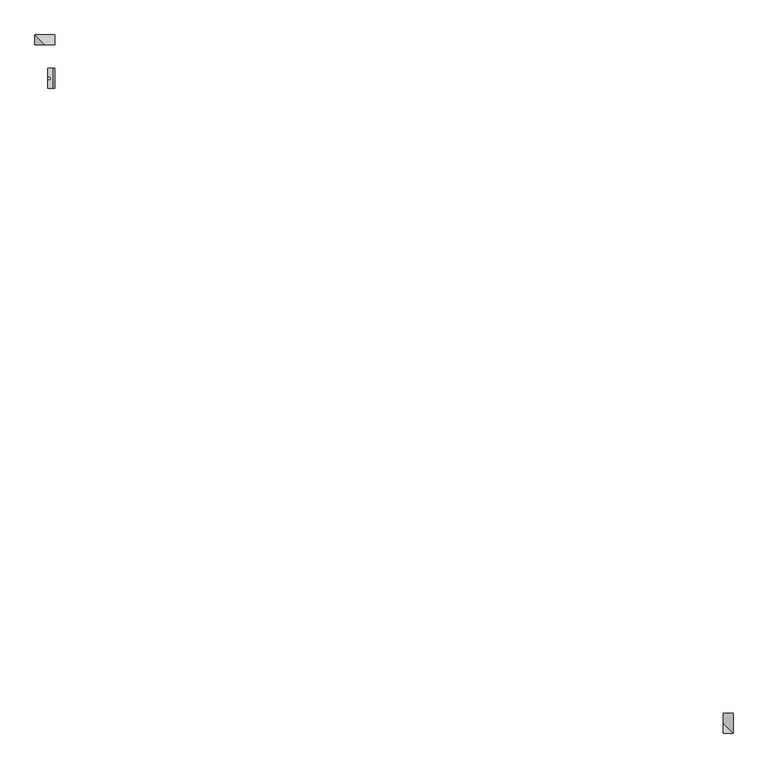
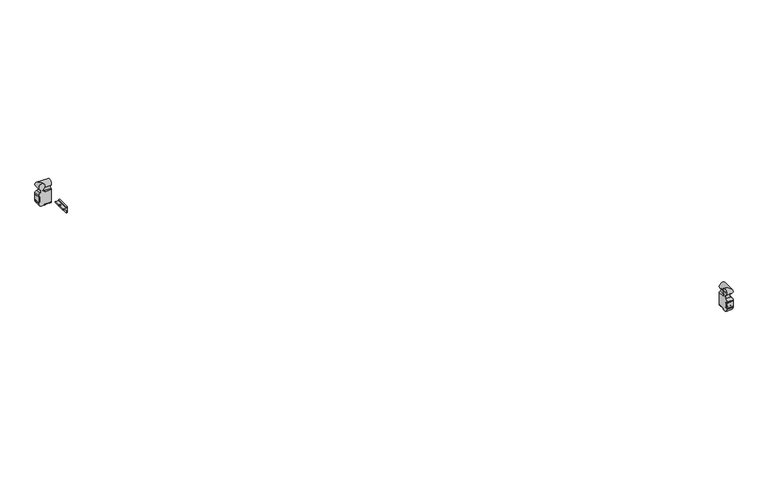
"""IFC4 building model written with IfcOpenShell, lengths in millimetres: railing geometry, Handrail-InPro-HR12-C-Prism-Metal_Bracket-Wood."""

from ifc_helpers import new_model, si_unit, frame, origin, place, context, project, spatial, polyline, circle_curve, ellipse_curve, outline, extrude, source, transform, mapped, element, save
from ifc_brep_helpers import plane_surface, cylinder_surface, revolved_surface, advanced_brep


def railing_b5e296fa(model_context):
    return source(origin(), model_context, "Body", "SolidModel", [
        advanced_brep(
        [(-5336.4882624, 4169.4443008, 812.8), (-5330.1382624, 4169.4443008, 812.8), (-5330.1382624, 4169.4443008, 850.9), (-5336.4882624, 4169.4443008, 850.9), (-5336.4882624, 4169.4443008, 844.55), (-5357.9195124, 4169.4443008, 844.55), (-5357.9195124, 4169.4443008, 838.2), (-5346.0132624, 4169.4443008, 838.2), (-5336.4882624, 4169.4443008, 828.675), (-5336.4882624, 4245.6443008, 812.8), (-5336.4882624, 4245.6443008, 828.675), (-5346.0132624, 4245.6443008, 838.2), (-5357.9195124, 4245.6443008, 838.2), (-5357.9195124, 4245.6443008, 844.55), (-5336.4882624, 4245.6443008, 844.55), (-5336.4882624, 4245.6443008, 850.9), (-5330.1382624, 4245.6443008, 850.9), (-5330.1382624, 4245.6443008, 812.8), (-5330.1382624, 4213.4974258, 825.3070671), (-5330.1382624, 4201.5911758, 825.3070671), (-5351.9663874, 4202.7818008, 844.55), (-5351.9663874, 4212.3068008, 844.55), (-5351.9663874, 4212.3068008, 838.2), (-5351.9663874, 4202.7818008, 838.2), (-5336.4882624, 4212.4531423, 828.675), (-5336.4882624, 4202.6354592, 828.675), (-5336.4882624, 4201.5911758, 825.3070671), (-5336.4882624, 4213.4974258, 825.3070671)],
        [
            (0, 1),
            (1, 2),
            (2, 3),
            (3, 4),
            (4, 5),
            (5, 6),
            (6, 7),
            (7, 8),
            (8, 0),
            (9, 10),
            (10, 11),
            (11, 12),
            (12, 13),
            (13, 14),
            (14, 15),
            (15, 16),
            (16, 17),
            (17, 9),
            (0, 9),
            (17, 1),
            (16, 2),
            (18, 19, circle_curve(frame((-5330.1382624, 4207.5443008, 825.3070671), z_axis=(-1.0, 0.0, 0.0), x_axis=(0.0, 1.0, 0.0)), 5.953125)),
            (19, 18, circle_curve(frame((-5330.1382624, 4207.5443008, 825.3070671), z_axis=(-1.0, 0.0, 0.0), x_axis=(0.0, 1.0, 0.0)), 5.953125)),
            (15, 3),
            (14, 4),
            (13, 5),
            (20, 21, circle_curve(frame((-5351.9663874, 4207.5443008, 844.55), z_axis=(0.0, 0.0, -1.0), x_axis=(0.0, -1.0, 0.0)), 4.7625)),
            (21, 20, circle_curve(frame((-5351.9663874, 4207.5443008, 844.55), z_axis=(0.0, 0.0, -1.0), x_axis=(0.0, -1.0, 0.0)), 4.7625)),
            (12, 6),
            (11, 7),
            (22, 23, circle_curve(frame((-5351.9663874, 4207.5443008, 838.2), z_axis=(0.0, 0.0, 1.0), x_axis=(0.0, -1.0, 0.0)), 4.7625)),
            (23, 22, circle_curve(frame((-5351.9663874, 4207.5443008, 838.2), z_axis=(0.0, 0.0, 1.0), x_axis=(0.0, -1.0, 0.0)), 4.7625)),
            (10, 24),
            (24, 25, ellipse_curve(frame((-5333.1203295, 4207.5443008, 825.3070671), z_axis=(0.7071067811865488, 0.0, 0.7071067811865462), x_axis=(0.7071067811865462, 0.0, -0.7071067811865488)), 8.4189901, 5.953125)),
            (25, 8),
            (25, 26, circle_curve(frame((-5336.4882624, 4207.5443008, 825.3070671), z_axis=(1.0, 0.0, 0.0), x_axis=(0.0, 1.0, 0.0)), 5.953125)),
            (26, 27, circle_curve(frame((-5336.4882624, 4207.5443008, 825.3070671), z_axis=(1.0, 0.0, 0.0), x_axis=(0.0, 1.0, 0.0)), 5.953125)),
            (27, 24, circle_curve(frame((-5336.4882624, 4207.5443008, 825.3070671), z_axis=(1.0, 0.0, 0.0), x_axis=(0.0, 1.0, 0.0)), 5.953125)),
            (22, 21),
            (20, 23),
            (26, 19),
            (18, 27),
        ],
        [
            plane_surface(frame((-5330.1382624, 4169.4443008, 812.8), z_axis=(0.0, -1.0, 0.0), x_axis=(1.0, 0.0, 0.0))),
            plane_surface(frame((-5330.1382624, 4245.6443008, 812.8), z_axis=(0.0, 1.0, 0.0), x_axis=(-1.0, 0.0, 0.0))),
            plane_surface(frame((-5336.4882624, 4169.4443008, 812.8), z_axis=(0.0, 0.0, -1.0), x_axis=(0.0, 1.0, 0.0))),
            plane_surface(frame((-5330.1382624, 4169.4443008, 812.8), z_axis=(1.0, 0.0, 0.0), x_axis=(0.0, 1.0, 0.0))),
            plane_surface(frame((-5330.1382624, 4169.4443008, 850.9), z_axis=(0.0, 0.0, 1.0), x_axis=(0.0, 1.0, 0.0))),
            plane_surface(frame((-5336.4882624, 4169.4443008, 850.9), z_axis=(-1.0, 0.0, 0.0), x_axis=(0.0, 1.0, 0.0))),
            plane_surface(frame((-5336.4882624, 4169.4443008, 844.55), z_axis=(0.0, 0.0, 1.0), x_axis=(0.0, 1.0, 0.0))),
            plane_surface(frame((-5357.9195124, 4169.4443008, 844.55), z_axis=(-1.0, 0.0, 0.0), x_axis=(0.0, 1.0, 0.0))),
            plane_surface(frame((-5357.9195124, 4169.4443008, 838.2), z_axis=(0.0, 0.0, -1.0), x_axis=(0.0, 1.0, 0.0))),
            plane_surface(frame((-5346.0132624, 4169.4443008, 838.2), z_axis=(-0.7071067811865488, 0.0, -0.7071067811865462), x_axis=(0.0, 1.0, 0.0))),
            plane_surface(frame((-5336.4882624, 4169.4443008, 828.675), z_axis=(-1.0, 0.0, 0.0), x_axis=(0.0, 1.0, 0.0))),
            revolved_surface(polyline([(-5351.9663874, 4202.7818008, 844.55), (-5351.9663874, 4202.7818008, 838.2)]), (-5351.9663874, 4207.5443008, 812.8), (0.0, 0.0, 1.0)),
            revolved_surface(polyline([(-5330.1382624, 4213.4974258, 825.3070671), (-5336.4882624, 4213.4974258, 825.3070671)]), (-5339.6632624, 4207.5443008, 825.3070671), (1.0, 0.0, 0.0)),
            revolved_surface(polyline([(-5327.167204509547, 4213.4974258, 825.3070671), (-5339.073454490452, 4213.4974258, 825.3070671)]), (-5339.6632624, 4207.5443008, 825.3070671), (1.0, 0.0, 0.0)),
        ],
        [
            (0, [[1, 2, 3, 4, 5, 6, 7, 8, 9]]),
            (1, [[10, 11, 12, 13, 14, 15, 16, 17, 18]]),
            (2, [[-1, 19, -18, 20]]),
            (3, [[-2, -20, -17, 21], [22, 23]]),
            (4, [[-3, -21, -16, 24]]),
            (5, [[-4, -24, -15, 25]]),
            (6, [[-5, -25, -14, 26], [27, 28]]),
            (7, [[-6, -26, -13, 29]]),
            (8, [[-7, -29, -12, 30], [31, 32]]),
            (9, [[-8, -30, -11, 33, 34, 35]]),
            (10, [[-9, -35, 36, 37, 38, -33, -10, -19]]),
            (11, [[39, -27, 40, -31]]),
            (11, [[-39, -32, -40, -28]]),
            (12, [[41, -22, 42, -37]]),
            (13, [[-41, -36, -34, -38, -42, -23]]),
        ],
    ),
        extrude(outline(polyline([(-2758.3882624, 1794.5443008), (-2752.0382624, 1794.5443008), (-2752.0382624, 1718.3443008), (-2790.1382624, 1718.3443008), (-2790.1382624, 1724.6943008), (-2758.3882624, 1724.6943008), (-2758.3882624, 1794.5443008)])), frame((0.0, 0.0, 802.48125), z_axis=(0.0, 0.0, 1.0), x_axis=(1.0, 0.0, 0.0)), (0.0, 0.0, 1.0), 31.6507813),
        advanced_brep(
        [(-2790.1382624, 1794.5443008, 857.25), (-2785.3757624, 1794.5443008, 863.203125), (-2782.1936731, 1794.5443008, 879.871875), (-2759.9828517, 1794.5443008, 879.871875), (-2759.9828517, 1794.5443008, 858.8375), (-2752.0382624, 1794.5443008, 842.9625), (-2752.0382624, 1794.5443008, 834.6274654), (-2758.5859277, 1794.5443008, 834.218893), (-2758.3882624, 1794.5443008, 831.0562471), (-2758.3882624, 1794.5443008, 805.2593721), (-2758.5859277, 1794.5443008, 802.0967262), (-2752.0382624, 1794.5443008, 801.6881538), (-2752.0382624, 1794.5443008, 793.75), (-2771.0882624, 1794.5443008, 774.7), (-2785.3757624, 1794.5443008, 774.7), (-2790.1382624, 1794.5443008, 779.4625), (-2790.1382624, 1756.4443008, 857.25), (-2785.3757624, 1751.6818008, 863.203125), (-2782.1936731, 1748.4997115, 879.871875), (-2759.9828517, 1726.2888901, 879.871875), (-2759.9828517, 1726.2888901, 858.8375), (-2752.0382624, 1718.3443008, 842.9625), (-2752.0382624, 1718.3443008, 834.6274654), (-2758.5859277, 1724.8919661, 834.218893), (-2758.3882624, 1724.6943008, 831.0562471), (-2758.3882624, 1724.6943008, 805.2593721), (-2758.5859277, 1724.8919661, 802.0967262), (-2752.0382624, 1718.3443008, 801.6881538), (-2752.0382624, 1718.3443008, 793.75), (-2771.0882624, 1737.3943008, 774.7), (-2790.1382624, 1737.3943008, 774.7), (-2790.1382624, 1751.6818008, 774.7), (-2785.3757624, 1751.6818008, 774.7), (-2790.1382624, 1756.4443008, 779.4625), (-2790.1382624, 1718.3443008, 793.75), (-2790.1382624, 1718.3443008, 801.6881538), (-2790.1382624, 1724.8919661, 802.0967262), (-2790.1382624, 1724.6943008, 805.2593721), (-2790.1382624, 1724.6943008, 831.0562471), (-2790.1382624, 1724.8919661, 834.218893), (-2790.1382624, 1718.3443008, 834.6274654), (-2790.1382624, 1718.3443008, 842.9625), (-2790.1382624, 1726.2888901, 858.8375), (-2790.1382624, 1726.2888901, 879.871875), (-2790.1382624, 1748.4997115, 879.871875), (-2790.1382624, 1751.6818008, 863.203125)],
        [
            (0, 1, circle_curve(frame((-2783.3304507, 1794.5443008, 856.6853131), z_axis=(0.0, 1.0, 0.0), x_axis=(1.0, 0.0, 0.0)), 6.8311911)),
            (1, 2, circle_curve(frame((-2788.2591618, 1794.5443008, 872.3916781), z_axis=(0.0, -1.0, 0.0), x_axis=(1.0, 0.0, 0.0)), 9.6303427)),
            (2, 3, circle_curve(frame((-2771.0882624, 1794.5443008, 895.35), z_axis=(0.0, 1.0, 0.0), x_axis=(1.0, 0.0, 0.0)), 19.05)),
            (3, 4, circle_curve(frame((-2752.8076951, 1794.5443008, 869.3546875), z_axis=(0.0, -1.0, 0.0), x_axis=(1.0, 0.0, 0.0)), 12.7316183)),
            (4, 5, circle_curve(frame((-2771.871391, 1794.5443008, 842.9625), z_axis=(0.0, 1.0, 0.0), x_axis=(1.0, 0.0, 0.0)), 19.8331287)),
            (5, 6),
            (6, 7),
            (7, 8, circle_curve(frame((-2758.3882624, 1794.5443008, 832.6437471), z_axis=(0.0, -1.0, 0.0), x_axis=(1.0, 0.0, 0.0)), 1.5875)),
            (8, 9),
            (9, 10, circle_curve(frame((-2758.3882624, 1794.5443008, 803.6718721), z_axis=(0.0, -1.0, 0.0), x_axis=(1.0, 0.0, 0.0)), 1.5875)),
            (10, 11),
            (11, 12),
            (12, 13, circle_curve(frame((-2771.0882624, 1794.5443008, 793.75), z_axis=(0.0, 1.0, 0.0), x_axis=(1.0, 0.0, 0.0)), 19.05)),
            (13, 14),
            (14, 15, circle_curve(frame((-2785.3757624, 1794.5443008, 779.4625), z_axis=(0.0, 1.0, 0.0), x_axis=(1.0, 0.0, 0.0)), 4.7625)),
            (15, 0),
            (0, 16),
            (16, 17, ellipse_curve(frame((-2783.3304507, 1749.6364891, 856.6853131), z_axis=(0.7071067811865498, 0.7071067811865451, 0.0), x_axis=(-0.707106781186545, 0.7071067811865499, 0.0)), 9.6607631, 6.8311911)),
            (17, 1),
            (17, 18, ellipse_curve(frame((-2788.2591618, 1754.5652002, 872.3916781), z_axis=(-0.7071067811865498, -0.7071067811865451, 0.0), x_axis=(0.707106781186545, -0.7071067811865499, 0.0)), 13.6193612, 9.6303427)),
            (18, 2),
            (18, 19, ellipse_curve(frame((-2771.0882624, 1737.3943008, 895.35), z_axis=(0.7071067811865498, 0.7071067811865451, 0.0), x_axis=(-0.707106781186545, 0.7071067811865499, 0.0)), 26.9407684, 19.05)),
            (19, 3),
            (19, 20, ellipse_curve(frame((-2752.8076951, 1719.1137335, 869.3546875), z_axis=(-0.7071067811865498, -0.7071067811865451, 0.0), x_axis=(0.707106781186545, -0.7071067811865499, 0.0)), 18.0052273, 12.7316183)),
            (20, 4),
            (20, 21, ellipse_curve(frame((-2771.871391, 1738.1774295, 842.9625), z_axis=(0.7071067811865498, 0.7071067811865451, 0.0), x_axis=(-0.707106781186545, 0.7071067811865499, 0.0)), 28.0482796, 19.8331287)),
            (21, 5),
            (21, 22),
            (22, 6),
            (22, 23),
            (23, 7),
            (23, 24, ellipse_curve(frame((-2758.3882624, 1724.6943008, 832.6437471), z_axis=(-0.7071067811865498, -0.7071067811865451, 0.0), x_axis=(0.707106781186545, -0.7071067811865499, 0.0)), 2.245064, 1.5875)),
            (24, 8),
            (24, 25),
            (25, 9),
            (25, 26, ellipse_curve(frame((-2758.3882624, 1724.6943008, 803.6718721), z_axis=(-0.7071067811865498, -0.7071067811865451, 0.0), x_axis=(0.707106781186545, -0.7071067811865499, 0.0)), 2.245064, 1.5875)),
            (26, 10),
            (26, 27),
            (27, 11),
            (27, 28),
            (28, 12),
            (28, 29, ellipse_curve(frame((-2771.0882624, 1737.3943008, 793.75), z_axis=(0.7071067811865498, 0.7071067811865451, 0.0), x_axis=(-0.707106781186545, 0.7071067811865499, 0.0)), 26.9407684, 19.05)),
            (29, 13),
            (29, 30),
            (30, 31),
            (31, 32),
            (32, 14),
            (32, 33, ellipse_curve(frame((-2785.3757624, 1751.6818008, 779.4625), z_axis=(0.7071067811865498, 0.7071067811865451, 0.0), x_axis=(-0.707106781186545, 0.7071067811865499, 0.0)), 6.7351921, 4.7625)),
            (33, 15),
            (33, 31, circle_curve(frame((-2790.1382624, 1751.6818008, 779.4625), z_axis=(-1.0, 0.0, 0.0), x_axis=(0.0, -1.0, 0.0)), 4.7625)),
            (30, 34, circle_curve(frame((-2790.1382624, 1737.3943008, 793.75), z_axis=(-1.0, 0.0, 0.0), x_axis=(0.0, -1.0, 0.0)), 19.05)),
            (34, 35),
            (35, 36),
            (36, 37, circle_curve(frame((-2790.1382624, 1724.6943008, 803.6718721), z_axis=(1.0, 0.0, 0.0), x_axis=(0.0, -1.0, 0.0)), 1.5875)),
            (37, 38),
            (38, 39, circle_curve(frame((-2790.1382624, 1724.6943008, 832.6437471), z_axis=(1.0, 0.0, 0.0), x_axis=(0.0, -1.0, 0.0)), 1.5875)),
            (39, 40),
            (40, 41),
            (41, 42, circle_curve(frame((-2790.1382624, 1738.1774295, 842.9625), z_axis=(-1.0, 0.0, 0.0), x_axis=(0.0, -1.0, 0.0)), 19.8331287)),
            (42, 43, circle_curve(frame((-2790.1382624, 1719.1137335, 869.3546875), z_axis=(1.0, 0.0, 0.0), x_axis=(0.0, -1.0, 0.0)), 12.7316183)),
            (43, 44, circle_curve(frame((-2790.1382624, 1737.3943008, 895.35), z_axis=(-1.0, 0.0, 0.0), x_axis=(0.0, -1.0, 0.0)), 19.05)),
            (44, 45, circle_curve(frame((-2790.1382624, 1754.5652002, 872.3916781), z_axis=(1.0, 0.0, 0.0), x_axis=(0.0, -1.0, 0.0)), 9.6303427)),
            (45, 16, circle_curve(frame((-2790.1382624, 1749.6364891, 856.6853131), z_axis=(-1.0, 0.0, 0.0), x_axis=(0.0, -1.0, 0.0)), 6.8311911)),
            (45, 17),
            (44, 18),
            (43, 19),
            (42, 20),
            (41, 21),
            (40, 22),
            (39, 23),
            (38, 24),
            (37, 25),
            (36, 26),
            (35, 27),
            (34, 28),
        ],
        [
            plane_surface(frame((-2752.0382624, 1794.5443008, 914.4992188), z_axis=(0.0, 1.0, 0.0), x_axis=(0.0, 0.0, 1.0))),
            cylinder_surface(frame((-2783.3304507, 1794.5443008, 856.6853131), z_axis=(0.0, 1.0, 0.0), x_axis=(1.0, 0.0, 0.0)), 6.8311911),
            revolved_surface(polyline([(-2778.6288191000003, 1744.9348575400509, 872.3916781), (-2778.6288191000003, 1794.5443008, 872.3916781)]), (-2788.2591618, 1794.5443008, 872.3916781), (0.0, -1.0, 0.0)),
            cylinder_surface(frame((-2771.0882624, 1794.5443008, 895.35), z_axis=(0.0, 1.0, 0.0), x_axis=(1.0, 0.0, 0.0)), 19.05),
            revolved_surface(polyline([(-2740.0760768, 1706.382115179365, 869.3546875), (-2740.0760768, 1794.5443008, 869.3546875)]), (-2752.8076951, 1794.5443008, 869.3546875), (0.0, -1.0, 0.0)),
            cylinder_surface(frame((-2771.871391, 1794.5443008, 842.9625), z_axis=(0.0, 1.0, 0.0), x_axis=(1.0, 0.0, 0.0)), 19.8331287),
            plane_surface(frame((-2752.0382624, 1794.5443008, 842.9625), z_axis=(1.0, 0.0, 0.0), x_axis=(0.0, -1.0, 0.0))),
            plane_surface(frame((-2752.0382624, 1794.5443008, 834.6274654), z_axis=(0.062278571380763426, 0.0, -0.9980588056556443), x_axis=(0.0, -1.0, 0.0))),
            revolved_surface(polyline([(-2756.8007623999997, 1723.1068008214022, 832.6437471), (-2756.8007623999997, 1794.5443008, 832.6437471)]), (-2758.3882624, 1794.5443008, 832.6437471), (0.0, -1.0, 0.0)),
            plane_surface(frame((-2758.3882624, 1794.5443008, 831.0562471), z_axis=(1.0, 0.0, 0.0), x_axis=(0.0, -1.0, 0.0))),
            revolved_surface(polyline([(-2756.8007623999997, 1723.1068008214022, 803.6718721), (-2756.8007623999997, 1794.5443008, 803.6718721)]), (-2758.3882624, 1794.5443008, 803.6718721), (0.0, -1.0, 0.0)),
            plane_surface(frame((-2758.5859277, 1794.5443008, 802.0967262), z_axis=(0.0622785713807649, 0.0, 0.9980588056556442), x_axis=(0.0, -1.0, 0.0))),
            plane_surface(frame((-2752.0382624, 1794.5443008, 801.6881538), z_axis=(1.0, 0.0, 0.0), x_axis=(0.0, -1.0, 0.0))),
            cylinder_surface(frame((-2771.0882624, 1794.5443008, 793.75), z_axis=(0.0, 1.0, 0.0), x_axis=(1.0, 0.0, 0.0)), 19.05),
            plane_surface(frame((-2771.0882624, 1794.5443008, 774.7), z_axis=(0.0, 0.0, -1.0), x_axis=(0.0, -1.0, 0.0))),
            cylinder_surface(frame((-2785.3757624, 1794.5443008, 779.4625), z_axis=(0.0, 1.0, 0.0), x_axis=(1.0, 0.0, 0.0)), 4.7625),
            plane_surface(frame((-2790.1382624, 1794.5443008, 779.4625), z_axis=(-1.0, 0.0, 0.0), x_axis=(0.0, -1.0, 0.0))),
            cylinder_surface(frame((-2752.0382624, 1749.6364891, 856.6853131), z_axis=(1.0, 0.0, 0.0), x_axis=(0.0, -1.0, 0.0)), 6.8311911),
            revolved_surface(polyline([(-2797.889504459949, 1744.9348575, 872.3916781), (-2778.6288191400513, 1744.9348575, 872.3916781)]), (-2752.0382624, 1754.5652002, 872.3916781), (-1.0, 0.0, 0.0)),
            cylinder_surface(frame((-2752.0382624, 1737.3943008, 895.35), z_axis=(1.0, 0.0, 0.0), x_axis=(0.0, -1.0, 0.0)), 19.05),
            revolved_surface(polyline([(-2790.1382624, 1706.3821152, 869.3546875), (-2740.0760767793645, 1706.3821152, 869.3546875)]), (-2752.0382624, 1719.1137335, 869.3546875), (-1.0, 0.0, 0.0)),
            cylinder_surface(frame((-2752.0382624, 1738.1774295, 842.9625), z_axis=(1.0, 0.0, 0.0), x_axis=(0.0, -1.0, 0.0)), 19.8331287),
            plane_surface(frame((-2752.0382624, 1718.3443008, 842.9625), z_axis=(0.0, -1.0, 0.0), x_axis=(-1.0, 0.0, 0.0))),
            plane_surface(frame((-2752.0382624, 1718.3443008, 834.6274654), z_axis=(0.0, -0.06227857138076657, -0.9980588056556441), x_axis=(-1.0, 0.0, 0.0))),
            revolved_surface(polyline([(-2790.1382624, 1723.1068008, 832.6437471), (-2756.800762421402, 1723.1068008, 832.6437471)]), (-2752.0382624, 1724.6943008, 832.6437471), (-1.0, 0.0, 0.0)),
            plane_surface(frame((-2758.3882624, 1724.6943008, 831.0562471), z_axis=(0.0, -1.0, 0.0), x_axis=(-1.0, 0.0, 0.0))),
            revolved_surface(polyline([(-2790.1382624, 1723.1068008, 803.6718721), (-2756.800762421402, 1723.1068008, 803.6718721)]), (-2752.0382624, 1724.6943008, 803.6718721), (-1.0, 0.0, 0.0)),
            plane_surface(frame((-2758.5859277, 1724.8919661, 802.0967262), z_axis=(0.0, -0.06227857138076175, 0.9980588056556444), x_axis=(-1.0, 0.0, 0.0))),
            plane_surface(frame((-2752.0382624, 1718.3443008, 801.6881538), z_axis=(0.0, -1.0, 0.0), x_axis=(-1.0, 0.0, 0.0))),
            cylinder_surface(frame((-2752.0382624, 1737.3943008, 793.75), z_axis=(1.0, 0.0, 0.0), x_axis=(0.0, -1.0, 0.0)), 19.05),
            cylinder_surface(frame((-2752.0382624, 1751.6818008, 779.4625), z_axis=(1.0, 0.0, 0.0), x_axis=(0.0, -1.0, 0.0)), 4.7625),
        ],
        [
            (0, [[1, 2, 3, 4, 5, 6, 7, 8, 9, 10, 11, 12, 13, 14, 15, 16]]),
            (1, [[-1, 17, 18, 19]]),
            (2, [[-2, -19, 20, 21]]),
            (3, [[-3, -21, 22, 23]]),
            (4, [[-4, -23, 24, 25]]),
            (5, [[-5, -25, 26, 27]]),
            (6, [[-6, -27, 28, 29]]),
            (7, [[-7, -29, 30, 31]]),
            (8, [[-8, -31, 32, 33]]),
            (9, [[-9, -33, 34, 35]]),
            (10, [[-10, -35, 36, 37]]),
            (11, [[-11, -37, 38, 39]]),
            (12, [[-12, -39, 40, 41]]),
            (13, [[-13, -41, 42, 43]]),
            (14, [[-14, -43, 44, 45, 46, 47]]),
            (15, [[-15, -47, 48, 49]]),
            (16, [[-16, -49, 50, -45, 51, 52, 53, 54, 55, 56, 57, 58, 59, 60, 61, 62, 63, -17]]),
            (17, [[-18, -63, 64]]),
            (18, [[-20, -64, -62, 65]]),
            (19, [[-22, -65, -61, 66]]),
            (20, [[-24, -66, -60, 67]]),
            (21, [[-26, -67, -59, 68]]),
            (22, [[-28, -68, -58, 69]]),
            (23, [[-30, -69, -57, 70]]),
            (24, [[-32, -70, -56, 71]]),
            (25, [[-34, -71, -55, 72]]),
            (26, [[-36, -72, -54, 73]]),
            (27, [[-38, -73, -53, 74]]),
            (28, [[-40, -74, -52, 75]]),
            (29, [[-42, -75, -51, -44]]),
            (30, [[-48, -46, -50]]),
        ],
    ),
        extrude(outline(polyline([(-5330.1382624, 4372.6443008), (-5330.1382624, 4366.2943008), (-5399.9882624, 4366.2943008), (-5399.9882624, 4334.5443008), (-5406.3382624, 4334.5443008), (-5406.3382624, 4372.6443008), (-5330.1382624, 4372.6443008)])), frame((0.0, 0.0, 802.48125), z_axis=(0.0, 0.0, 1.0), x_axis=(1.0, 0.0, 0.0)), (0.0, 0.0, 1.0), 31.6507813),
        advanced_brep(
        [(-5330.1382624, 4334.5443008, 857.25), (-5330.1382624, 4334.5443008, 779.4625), (-5330.1382624, 4339.3068008, 774.7), (-5330.1382624, 4353.5943008, 774.7), (-5330.1382624, 4372.6443008, 793.75), (-5330.1382624, 4372.6443008, 801.6881538), (-5330.1382624, 4366.0969514, 802.0967065), (-5330.1382624, 4366.2943008, 805.2593721), (-5330.1382624, 4366.2943008, 831.0562471), (-5330.1382624, 4366.0969514, 834.2189127), (-5330.1382624, 4372.6443008, 834.6274654), (-5330.1382624, 4372.6443008, 842.9625), (-5330.1382624, 4364.6997115, 858.8375), (-5330.1382624, 4364.6997115, 879.871875), (-5330.1382624, 4342.4888901, 879.871875), (-5330.1382624, 4339.3068008, 863.203125), (-5368.2382624, 4334.5443008, 857.25), (-5373.0007624, 4334.5443008, 863.203125), (-5376.1828517, 4334.5443008, 879.871875), (-5398.3936731, 4334.5443008, 879.871875), (-5398.3936731, 4334.5443008, 858.8375), (-5406.3382624, 4334.5443008, 842.9625), (-5406.3382624, 4334.5443008, 834.6274654), (-5399.790913, 4334.5443008, 834.2189127), (-5399.9882624, 4334.5443008, 831.0562471), (-5399.9882624, 4334.5443008, 805.2593721), (-5399.790913, 4334.5443008, 802.0967065), (-5406.3382624, 4334.5443008, 801.6881538), (-5406.3382624, 4334.5443008, 793.75), (-5387.2882624, 4334.5443008, 774.7), (-5373.0007624, 4334.5443008, 774.7), (-5368.2382624, 4334.5443008, 779.4625), (-5373.0007624, 4339.3068008, 774.7), (-5387.2882624, 4353.5943008, 774.7), (-5406.3382624, 4372.6443008, 793.75), (-5406.3382624, 4372.6443008, 801.6881538), (-5399.790913, 4366.0969514, 802.0967065), (-5399.9882624, 4366.2943008, 805.2593721), (-5399.9882624, 4366.2943008, 831.0562471), (-5399.790913, 4366.0969514, 834.2189127), (-5406.3382624, 4372.6443008, 834.6274654), (-5406.3382624, 4372.6443008, 842.9625), (-5398.3936731, 4364.6997115, 858.8375), (-5398.3936731, 4364.6997115, 879.871875), (-5376.1828517, 4342.4888901, 879.871875), (-5373.0007624, 4339.3068008, 863.203125)],
        [
            (0, 1),
            (1, 2, circle_curve(frame((-5330.1382624, 4339.3068008, 779.4625), z_axis=(1.0, 0.0, 0.0), x_axis=(0.0, -1.0, 0.0)), 4.7625)),
            (2, 3),
            (3, 4, circle_curve(frame((-5330.1382624, 4353.5943008, 793.75), z_axis=(1.0, 0.0, 0.0), x_axis=(0.0, -1.0, 0.0)), 19.05)),
            (4, 5),
            (5, 6),
            (6, 7, circle_curve(frame((-5330.1382624, 4366.2942831, 803.6718831), z_axis=(-1.0, 0.0, 0.0), x_axis=(0.0, -1.0, 0.0)), 1.587489)),
            (7, 8),
            (8, 9, circle_curve(frame((-5330.1382624, 4366.2942831, 832.6437361), z_axis=(-1.0, 0.0, 0.0), x_axis=(0.0, -1.0, 0.0)), 1.587489)),
            (9, 10),
            (10, 11),
            (11, 12, circle_curve(frame((-5330.1382624, 4352.8111721, 842.9625), z_axis=(1.0, 0.0, 0.0), x_axis=(0.0, -1.0, 0.0)), 19.8331287)),
            (12, 13, circle_curve(frame((-5330.1382624, 4371.874868, 869.3546875), z_axis=(-1.0, 0.0, 0.0), x_axis=(0.0, -1.0, 0.0)), 12.7316183)),
            (13, 14, circle_curve(frame((-5330.1382624, 4353.5943008, 895.35), z_axis=(1.0, 0.0, 0.0), x_axis=(0.0, -1.0, 0.0)), 19.05)),
            (14, 15, circle_curve(frame((-5330.1382624, 4336.4234013, 872.3916781), z_axis=(-1.0, 0.0, 0.0), x_axis=(0.0, -1.0, 0.0)), 9.6303427)),
            (15, 0, circle_curve(frame((-5330.1382624, 4341.3521125, 856.6853131), z_axis=(1.0, 0.0, 0.0), x_axis=(0.0, -1.0, 0.0)), 6.8311911)),
            (0, 16),
            (16, 17, circle_curve(frame((-5375.0460741, 4334.5443008, 856.6853131), z_axis=(0.0, -1.0, 0.0), x_axis=(1.0, 0.0, 0.0)), 6.8311911)),
            (17, 18, circle_curve(frame((-5370.1173629, 4334.5443008, 872.3916781), z_axis=(0.0, 1.0, 0.0), x_axis=(1.0, 0.0, 0.0)), 9.6303427)),
            (18, 19, circle_curve(frame((-5387.2882624, 4334.5443008, 895.35), z_axis=(0.0, -1.0, 0.0), x_axis=(1.0, 0.0, 0.0)), 19.05)),
            (19, 20, circle_curve(frame((-5405.5688296, 4334.5443008, 869.3546875), z_axis=(0.0, 1.0, 0.0), x_axis=(1.0, 0.0, 0.0)), 12.7316183)),
            (20, 21, circle_curve(frame((-5386.5051337, 4334.5443008, 842.9625), z_axis=(0.0, -1.0, 0.0), x_axis=(1.0, 0.0, 0.0)), 19.8331287)),
            (21, 22),
            (22, 23),
            (23, 24, circle_curve(frame((-5399.9882447, 4334.5443008, 832.6437361), z_axis=(0.0, 1.0, 0.0), x_axis=(1.0, 0.0, 0.0)), 1.587489)),
            (24, 25),
            (25, 26, circle_curve(frame((-5399.9882447, 4334.5443008, 803.6718831), z_axis=(0.0, 1.0, 0.0), x_axis=(1.0, 0.0, 0.0)), 1.587489)),
            (26, 27),
            (27, 28),
            (28, 29, circle_curve(frame((-5387.2882624, 4334.5443008, 793.75), z_axis=(0.0, -1.0, 0.0), x_axis=(1.0, 0.0, 0.0)), 19.05)),
            (29, 30),
            (30, 31, circle_curve(frame((-5373.0007624, 4334.5443008, 779.4625), z_axis=(0.0, -1.0, 0.0), x_axis=(1.0, 0.0, 0.0)), 4.7625)),
            (31, 1),
            (31, 32, ellipse_curve(frame((-5373.0007624, 4339.3068008, 779.4625), z_axis=(0.7071067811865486, 0.7071067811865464, 0.0), x_axis=(0.7071067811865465, -0.7071067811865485, 0.0)), 6.7351921, 4.7625)),
            (32, 2),
            (32, 30),
            (29, 33),
            (33, 3),
            (33, 34, ellipse_curve(frame((-5387.2882624, 4353.5943008, 793.75), z_axis=(0.7071067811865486, 0.7071067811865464, 0.0), x_axis=(0.7071067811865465, -0.7071067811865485, 0.0)), 26.9407684, 19.05)),
            (34, 4),
            (34, 35),
            (35, 5),
            (35, 36),
            (36, 6),
            (36, 37, ellipse_curve(frame((-5399.9882447, 4366.2942831, 803.6718831), z_axis=(-0.7071067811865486, -0.7071067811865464, 0.0), x_axis=(-0.7071067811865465, 0.7071067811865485, 0.0)), 2.2450485, 1.587489)),
            (37, 7),
            (37, 38),
            (38, 8),
            (38, 39, ellipse_curve(frame((-5399.9882447, 4366.2942831, 832.6437361), z_axis=(-0.7071067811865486, -0.7071067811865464, 0.0), x_axis=(-0.7071067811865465, 0.7071067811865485, 0.0)), 2.2450485, 1.587489)),
            (39, 9),
            (39, 40),
            (40, 10),
            (40, 41),
            (41, 11),
            (41, 42, ellipse_curve(frame((-5386.5051337, 4352.8111721, 842.9625), z_axis=(0.7071067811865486, 0.7071067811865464, 0.0), x_axis=(0.7071067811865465, -0.7071067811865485, 0.0)), 28.0482796, 19.8331287)),
            (42, 12),
            (42, 43, ellipse_curve(frame((-5405.5688296, 4371.874868, 869.3546875), z_axis=(-0.7071067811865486, -0.7071067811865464, 0.0), x_axis=(-0.7071067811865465, 0.7071067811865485, 0.0)), 18.0052273, 12.7316183)),
            (43, 13),
            (43, 44, ellipse_curve(frame((-5387.2882624, 4353.5943008, 895.35), z_axis=(0.7071067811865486, 0.7071067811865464, 0.0), x_axis=(0.7071067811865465, -0.7071067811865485, 0.0)), 26.9407684, 19.05)),
            (44, 14),
            (44, 45, ellipse_curve(frame((-5370.1173629, 4336.4234013, 872.3916781), z_axis=(-0.7071067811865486, -0.7071067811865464, 0.0), x_axis=(-0.7071067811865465, 0.7071067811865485, 0.0)), 13.6193612, 9.6303427)),
            (45, 15),
            (45, 16, ellipse_curve(frame((-5375.0460741, 4341.3521125, 856.6853131), z_axis=(0.7071067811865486, 0.7071067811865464, 0.0), x_axis=(0.7071067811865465, -0.7071067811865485, 0.0)), 9.6607631, 6.8311911)),
            (28, 34),
            (27, 35),
            (26, 36),
            (25, 37),
            (24, 38),
            (23, 39),
            (22, 40),
            (21, 41),
            (20, 42),
            (19, 43),
            (18, 44),
            (17, 45),
        ],
        [
            plane_surface(frame((-5330.1382624, 4372.6443008, 914.4992188), z_axis=(1.0, 0.0, 0.0), x_axis=(0.0, 0.0, 1.0))),
            plane_surface(frame((-5330.1382624, 4334.5443008, 857.25), z_axis=(0.0, -1.0, 0.0), x_axis=(-1.0, 0.0, 0.0))),
            cylinder_surface(frame((-5330.1382624, 4339.3068008, 779.4625), z_axis=(1.0, 0.0, 0.0), x_axis=(0.0, -1.0, 0.0)), 4.7625),
            plane_surface(frame((-5330.1382624, 4339.3068008, 774.7), z_axis=(0.0, 0.0, -1.0), x_axis=(-1.0, 0.0, 0.0))),
            cylinder_surface(frame((-5330.1382624, 4353.5943008, 793.75), z_axis=(1.0, 0.0, 0.0), x_axis=(0.0, -1.0, 0.0)), 19.05),
            plane_surface(frame((-5330.1382624, 4372.6443008, 793.75), z_axis=(0.0, 1.0, 0.0), x_axis=(-1.0, 0.0, 0.0))),
            plane_surface(frame((-5330.1382624, 4372.6443008, 801.6881538), z_axis=(0.0, 0.062278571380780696, 0.9980588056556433), x_axis=(-1.0, 0.0, 0.0))),
            revolved_surface(polyline([(-5401.575733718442, 4364.7067941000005, 803.6718831), (-5330.1382624, 4364.7067941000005, 803.6718831)]), (-5330.1382624, 4366.2942831, 803.6718831), (-1.0, 0.0, 0.0)),
            plane_surface(frame((-5330.1382624, 4366.2943008, 805.2593721), z_axis=(0.0, 1.0, 0.0), x_axis=(-1.0, 0.0, 0.0))),
            revolved_surface(polyline([(-5401.575733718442, 4364.7067941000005, 832.6437361), (-5330.1382624, 4364.7067941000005, 832.6437361)]), (-5330.1382624, 4366.2942831, 832.6437361), (-1.0, 0.0, 0.0)),
            plane_surface(frame((-5330.1382624, 4366.0969514, 834.2189127), z_axis=(0.0, 0.0622785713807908, -0.9980588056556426), x_axis=(-1.0, 0.0, 0.0))),
            plane_surface(frame((-5330.1382624, 4372.6443008, 834.6274654), z_axis=(0.0, 1.0, 0.0), x_axis=(-1.0, 0.0, 0.0))),
            cylinder_surface(frame((-5330.1382624, 4352.8111721, 842.9625), z_axis=(1.0, 0.0, 0.0), x_axis=(0.0, -1.0, 0.0)), 19.8331287),
            revolved_surface(polyline([(-5418.300447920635, 4359.1432497, 869.3546875), (-5330.1382624, 4359.1432497, 869.3546875)]), (-5330.1382624, 4371.874868, 869.3546875), (-1.0, 0.0, 0.0)),
            cylinder_surface(frame((-5330.1382624, 4353.5943008, 895.35), z_axis=(1.0, 0.0, 0.0), x_axis=(0.0, -1.0, 0.0)), 19.05),
            revolved_surface(polyline([(-5379.747705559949, 4326.793058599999, 872.3916781), (-5330.1382624, 4326.793058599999, 872.3916781)]), (-5330.1382624, 4336.4234013, 872.3916781), (-1.0, 0.0, 0.0)),
            cylinder_surface(frame((-5330.1382624, 4341.3521125, 856.6853131), z_axis=(1.0, 0.0, 0.0), x_axis=(0.0, -1.0, 0.0)), 6.8311911),
            cylinder_surface(frame((-5373.0007624, 4372.6443008, 779.4625), z_axis=(0.0, 1.0, 0.0), x_axis=(1.0, 0.0, 0.0)), 4.7625),
            cylinder_surface(frame((-5387.2882624, 4372.6443008, 793.75), z_axis=(0.0, 1.0, 0.0), x_axis=(1.0, 0.0, 0.0)), 19.05),
            plane_surface(frame((-5406.3382624, 4372.6443008, 793.75), z_axis=(-1.0, 0.0, 0.0), x_axis=(0.0, -1.0, 0.0))),
            plane_surface(frame((-5406.3382624, 4372.6443008, 801.6881538), z_axis=(-0.06227857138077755, 0.0, 0.9980588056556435), x_axis=(0.0, -1.0, 0.0))),
            revolved_surface(polyline([(-5398.4007557, 4334.5443008, 803.6718831), (-5398.4007557, 4367.881772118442, 803.6718831)]), (-5399.9882447, 4372.6443008, 803.6718831), (0.0, -1.0, 0.0)),
            plane_surface(frame((-5399.9882624, 4366.2943008, 805.2593721), z_axis=(-1.0, 0.0, 0.0), x_axis=(0.0, -1.0, 0.0))),
            revolved_surface(polyline([(-5398.4007557, 4334.5443008, 832.6437361), (-5398.4007557, 4367.881772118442, 832.6437361)]), (-5399.9882447, 4372.6443008, 832.6437361), (0.0, -1.0, 0.0)),
            plane_surface(frame((-5399.790913, 4366.0969514, 834.2189127), z_axis=(-0.06227857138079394, 0.0, -0.9980588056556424), x_axis=(0.0, -1.0, 0.0))),
            plane_surface(frame((-5406.3382624, 4372.6443008, 834.6274654), z_axis=(-1.0, 0.0, 0.0), x_axis=(0.0, -1.0, 0.0))),
            cylinder_surface(frame((-5386.5051337, 4372.6443008, 842.9625), z_axis=(0.0, 1.0, 0.0), x_axis=(1.0, 0.0, 0.0)), 19.8331287),
            revolved_surface(polyline([(-5392.8372113, 4334.5443008, 869.3546875), (-5392.8372113, 4384.606486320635, 869.3546875)]), (-5405.5688296, 4372.6443008, 869.3546875), (0.0, -1.0, 0.0)),
            cylinder_surface(frame((-5387.2882624, 4372.6443008, 895.35), z_axis=(0.0, 1.0, 0.0), x_axis=(1.0, 0.0, 0.0)), 19.05),
            revolved_surface(polyline([(-5360.4870202, 4326.793058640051, 872.3916781), (-5360.4870202, 4346.053743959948, 872.3916781)]), (-5370.1173629, 4372.6443008, 872.3916781), (0.0, -1.0, 0.0)),
            cylinder_surface(frame((-5375.0460741, 4372.6443008, 856.6853131), z_axis=(0.0, 1.0, 0.0), x_axis=(1.0, 0.0, 0.0)), 6.8311911),
        ],
        [
            (0, [[1, 2, 3, 4, 5, 6, 7, 8, 9, 10, 11, 12, 13, 14, 15, 16]]),
            (1, [[-1, 17, 18, 19, 20, 21, 22, 23, 24, 25, 26, 27, 28, 29, 30, 31, 32, 33]]),
            (2, [[-2, -33, 34, 35]]),
            (3, [[-3, -35, 36, -31, 37, 38]]),
            (4, [[-4, -38, 39, 40]]),
            (5, [[-5, -40, 41, 42]]),
            (6, [[-6, -42, 43, 44]]),
            (7, [[-7, -44, 45, 46]]),
            (8, [[-8, -46, 47, 48]]),
            (9, [[-9, -48, 49, 50]]),
            (10, [[-10, -50, 51, 52]]),
            (11, [[-11, -52, 53, 54]]),
            (12, [[-12, -54, 55, 56]]),
            (13, [[-13, -56, 57, 58]]),
            (14, [[-14, -58, 59, 60]]),
            (15, [[-15, -60, 61, 62]]),
            (16, [[-16, -62, 63, -17]]),
            (17, [[-34, -32, -36]]),
            (18, [[-39, -37, -30, 64]]),
            (19, [[-41, -64, -29, 65]]),
            (20, [[-43, -65, -28, 66]]),
            (21, [[-45, -66, -27, 67]]),
            (22, [[-47, -67, -26, 68]]),
            (23, [[-49, -68, -25, 69]]),
            (24, [[-51, -69, -24, 70]]),
            (25, [[-53, -70, -23, 71]]),
            (26, [[-55, -71, -22, 72]]),
            (27, [[-57, -72, -21, 73]]),
            (28, [[-59, -73, -20, 74]]),
            (29, [[-61, -74, -19, 75]]),
            (30, [[-63, -75, -18]]),
        ],
    ),
    ])


if __name__ == "__main__":
    model = new_model("IFC4")
    model_context = context("Model", 3, world=origin())
    ifc_project = project(units=[si_unit("LENGTHUNIT", "METRE", prefix="MILLI")], contexts=[model_context])
    site = spatial("IfcSite", under=ifc_project)
    building = spatial("IfcBuilding", under=site)
    placement = place(None, origin())
    railing_shape = railing_b5e296fa(model_context)
    element("IfcRailing", 1, ObjectType="Handrail-InPro-HR12-C-Prism-Metal_Bracket-Wood", at=placement, inside=building, context=model_context, shape_type="MappedRepresentation", body=[
        mapped(railing_shape, transform((0.0, 0.0, 0.0), x_axis=(1.0, 0.0, 0.0), y_axis=(0.0, 1.0, 0.0), z_axis=(0.0, 0.0, 1.0))),
    ])
    save(model, "model.ifc")
